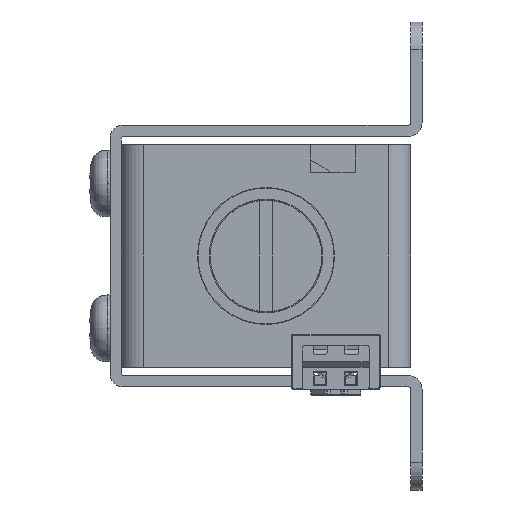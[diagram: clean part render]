
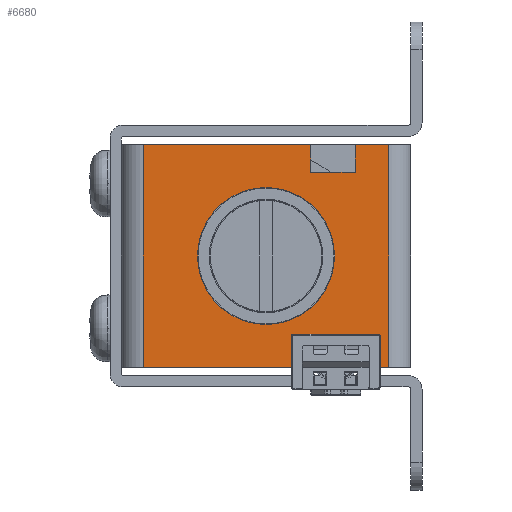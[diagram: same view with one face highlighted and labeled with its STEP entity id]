
A CAD part, left-side view. The second image highlights one B-rep face of the part: STEP entity #6680.
In plain terms, the highlighted planar face has unit normal (-1, 0, 0).
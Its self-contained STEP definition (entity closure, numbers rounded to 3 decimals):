
#37=DIRECTION('',(0.,-1.,0.));
#38=VECTOR('',#37,15.);
#39=CARTESIAN_POINT('',(-27.,11.,-10.));
#40=LINE('',#39,#38);
#86=DIRECTION('',(0.,-1.,0.));
#87=VECTOR('',#86,3.);
#88=CARTESIAN_POINT('',(-27.,-8.,-10.));
#89=LINE('',#88,#87);
#2087=DIRECTION('',(0.,-1.,0.));
#2088=VECTOR('',#2087,15.);
#2089=CARTESIAN_POINT('',(-27.,11.,10.));
#2090=LINE('',#2089,#2088);
#2096=DIRECTION('',(0.,-1.,0.));
#2097=VECTOR('',#2096,3.);
#2098=CARTESIAN_POINT('',(-27.,-8.,10.));
#2099=LINE('',#2098,#2097);
#2186=CARTESIAN_POINT('',(-27.,0.,0.));
#2187=DIRECTION('',(-1.,0.,0.));
#2188=DIRECTION('',(0.,0.,1.));
#2189=AXIS2_PLACEMENT_3D('',#2186,#2187,#2188);
#2191=CARTESIAN_POINT('',(-27.,0.,0.));
#2192=DIRECTION('',(-1.,0.,0.));
#2193=DIRECTION('',(0.,0.,-1.));
#2194=AXIS2_PLACEMENT_3D('',#2191,#2192,#2193);
#2196=DIRECTION('',(0.,0.,-1.));
#2197=VECTOR('',#2196,20.);
#2198=CARTESIAN_POINT('',(-27.,11.,10.));
#2199=LINE('',#2198,#2197);
#2200=DIRECTION('',(0.,0.,-1.));
#2201=VECTOR('',#2200,2.5);
#2202=CARTESIAN_POINT('',(-27.,-4.,10.));
#2203=LINE('',#2202,#2201);
#2204=DIRECTION('',(0.,-1.,0.));
#2205=VECTOR('',#2204,4.);
#2206=CARTESIAN_POINT('',(-27.,-4.,7.5));
#2207=LINE('',#2206,#2205);
#2208=DIRECTION('',(0.,0.,-1.));
#2209=VECTOR('',#2208,2.5);
#2210=CARTESIAN_POINT('',(-27.,-8.,10.));
#2211=LINE('',#2210,#2209);
#2212=DIRECTION('',(0.,0.,-1.));
#2213=VECTOR('',#2212,20.);
#2214=CARTESIAN_POINT('',(-27.,-11.,10.));
#2215=LINE('',#2214,#2213);
#2216=DIRECTION('',(0.,0.,1.));
#2217=VECTOR('',#2216,2.5);
#2218=CARTESIAN_POINT('',(-27.,-8.,-10.));
#2219=LINE('',#2218,#2217);
#2220=DIRECTION('',(0.,1.,0.));
#2221=VECTOR('',#2220,4.);
#2222=CARTESIAN_POINT('',(-27.,-8.,-7.5));
#2223=LINE('',#2222,#2221);
#2224=DIRECTION('',(0.,0.,1.));
#2225=VECTOR('',#2224,2.5);
#2226=CARTESIAN_POINT('',(-27.,-4.,-10.));
#2227=LINE('',#2226,#2225);
#2760=CARTESIAN_POINT('',(-27.,-8.,-10.));
#2762=VERTEX_POINT('',#2760);
#2764=CARTESIAN_POINT('',(-27.,-4.,-10.));
#2766=VERTEX_POINT('',#2764);
#2768=CARTESIAN_POINT('',(-27.,-4.,10.));
#2770=VERTEX_POINT('',#2768);
#2772=CARTESIAN_POINT('',(-27.,-8.,10.));
#2774=VERTEX_POINT('',#2772);
#2776=CARTESIAN_POINT('',(-27.,-8.,-7.5));
#2777=VERTEX_POINT('',#2776);
#2778=CARTESIAN_POINT('',(-27.,-4.,-7.5));
#2779=VERTEX_POINT('',#2778);
#2780=CARTESIAN_POINT('',(-27.,-4.,7.5));
#2781=VERTEX_POINT('',#2780);
#2782=CARTESIAN_POINT('',(-27.,-8.,7.5));
#2783=VERTEX_POINT('',#2782);
#2792=CARTESIAN_POINT('',(-27.,0.,6.15));
#2794=VERTEX_POINT('',#2792);
#2796=CARTESIAN_POINT('',(-27.,0.,-6.15));
#2798=VERTEX_POINT('',#2796);
#2992=CARTESIAN_POINT('',(-27.,11.,-10.));
#2994=VERTEX_POINT('',#2992);
#2998=CARTESIAN_POINT('',(-27.,11.,10.));
#2999=VERTEX_POINT('',#2998);
#3001=CARTESIAN_POINT('',(-27.,-11.,-10.));
#3003=VERTEX_POINT('',#3001);
#3004=CARTESIAN_POINT('',(-27.,-11.,10.));
#3005=VERTEX_POINT('',#3004);
#6650=CARTESIAN_POINT('',(-27.,13.,-10.));
#6651=DIRECTION('',(-1.,0.,0.));
#6652=DIRECTION('',(0.,-1.,0.));
#6653=AXIS2_PLACEMENT_3D('',#6650,#6651,#6652);
#6654=PLANE('',#6653);
#6655=ORIENTED_EDGE('',*,*,#3140,.F.);
#6656=ORIENTED_EDGE('',*,*,#6454,.T.);
#6658=ORIENTED_EDGE('',*,*,#6657,.T.);
#6660=ORIENTED_EDGE('',*,*,#6659,.T.);
#6662=ORIENTED_EDGE('',*,*,#6661,.F.);
#6663=ORIENTED_EDGE('',*,*,#6473,.T.);
#6665=ORIENTED_EDGE('',*,*,#6664,.T.);
#6666=ORIENTED_EDGE('',*,*,#3118,.F.);
#6667=ORIENTED_EDGE('',*,*,#6617,.T.);
#6668=ORIENTED_EDGE('',*,*,#6634,.T.);
#6670=ORIENTED_EDGE('',*,*,#6669,.F.);
#6671=ORIENTED_EDGE('',*,*,#3079,.F.);
#6672=EDGE_LOOP('',(#6655,#6656,#6658,#6660,#6662,#6663,#6665,#6666,#6667,#6668,
#6670,#6671));
#6673=FACE_OUTER_BOUND('',#6672,.F.);
#6675=ORIENTED_EDGE('',*,*,#6674,.T.);
#6677=ORIENTED_EDGE('',*,*,#6676,.T.);
#6678=EDGE_LOOP('',(#6675,#6677));
#6679=FACE_BOUND('',#6678,.F.);
#6680=ADVANCED_FACE('',(#6673,#6679),#6654,.T.);
#2190=CIRCLE('',#2189,6.15);
#2195=CIRCLE('',#2194,6.15);
#3079=EDGE_CURVE('',#2994,#2766,#40,.T.);
#3118=EDGE_CURVE('',#2762,#3003,#89,.T.);
#3140=EDGE_CURVE('',#2999,#2994,#2199,.T.);
#6454=EDGE_CURVE('',#2999,#2770,#2090,.T.);
#6473=EDGE_CURVE('',#2774,#3005,#2099,.T.);
#6617=EDGE_CURVE('',#2762,#2777,#2219,.T.);
#6634=EDGE_CURVE('',#2777,#2779,#2223,.T.);
#6657=EDGE_CURVE('',#2770,#2781,#2203,.T.);
#6659=EDGE_CURVE('',#2781,#2783,#2207,.T.);
#6661=EDGE_CURVE('',#2774,#2783,#2211,.T.);
#6664=EDGE_CURVE('',#3005,#3003,#2215,.T.);
#6669=EDGE_CURVE('',#2766,#2779,#2227,.T.);
#6674=EDGE_CURVE('',#2794,#2798,#2190,.T.);
#6676=EDGE_CURVE('',#2798,#2794,#2195,.T.);
